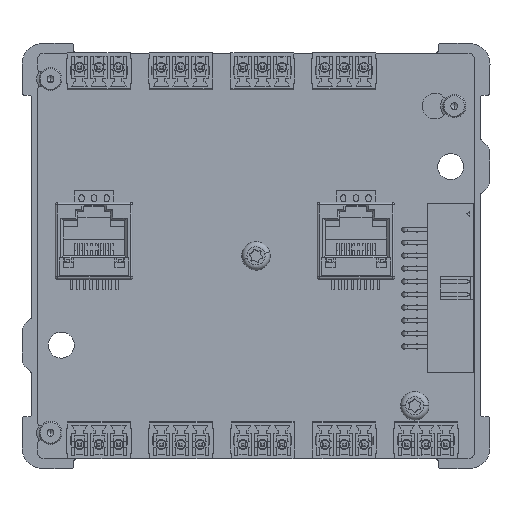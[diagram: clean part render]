
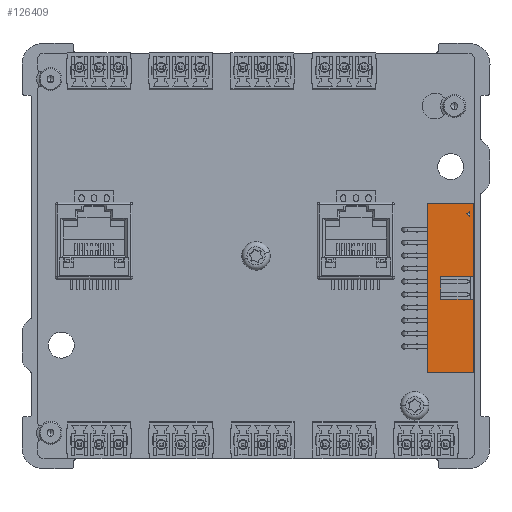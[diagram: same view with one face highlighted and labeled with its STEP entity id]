
A CAD part, top view. The second image highlights one B-rep face of the part: STEP entity #126409.
In plain terms, the highlighted free-form (B-spline) face has degree [1, 1] with [2, 2] control points.
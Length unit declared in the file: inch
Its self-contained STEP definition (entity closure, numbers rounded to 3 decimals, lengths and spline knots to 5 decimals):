
#858 = LINE ( 'NONE', #20258, #192823 ) ;
#5289 = FACE_BOUND ( 'NONE', #44345, .T. ) ;
#9961 = CARTESIAN_POINT ( 'NONE',  ( 1.47198, 0.60547, -0.26989 ) ) ;
#10151 = EDGE_CURVE ( 'NONE', #155593, #46162, #115164, .T. ) ;
#13766 = VECTOR ( 'NONE', #71559, 39.37008 ) ;
#19291 = VECTOR ( 'NONE', #187952, 39.37008 ) ;
#20258 = CARTESIAN_POINT ( 'NONE',  ( 1.41544, 1.08716, -0.26989 ) ) ;
#21258 = VECTOR ( 'NONE', #229078, 39.37008 ) ;
#30052 = CARTESIAN_POINT ( 'NONE',  ( 1.47899, 1.19289, -0.26989 ) ) ;
#33537 = CARTESIAN_POINT ( 'NONE',  ( 1.47198, -0.13311, -0.26989 ) ) ;
#34084 = VERTEX_POINT ( 'NONE', #236809 ) ;
#39496 = VERTEX_POINT ( 'NONE', #85392 ) ;
#40898 = VERTEX_POINT ( 'NONE', #9961 ) ;
#44345 = EDGE_LOOP ( 'NONE', ( #60470, #134954, #202706 ) ) ;
#44971 = VECTOR ( 'NONE', #131217, 39.37008 ) ;
#46162 = VERTEX_POINT ( 'NONE', #206807 ) ;
#54009 = LINE ( 'NONE', #195549, #196486 ) ;
#55388 = VECTOR ( 'NONE', #141908, 39.37008 ) ;
#60470 = ORIENTED_EDGE ( 'NONE', *, *, #155108, .F. ) ;
#61006 = CARTESIAN_POINT ( 'NONE',  ( 1.47198, 0.42831, -0.26989 ) ) ;
#67114 = CARTESIAN_POINT ( 'NONE',  ( 1.47198, 0.42831, -0.26989 ) ) ;
#71559 = DIRECTION ( 'NONE',  ( -1., 0., 0. ) ) ;
#75638 = EDGE_CURVE ( 'NONE', #34084, #163302, #858, .T. ) ;
#78463 = EDGE_CURVE ( 'NONE', #148120, #34084, #91553, .T. ) ;
#80467 = CARTESIAN_POINT ( 'NONE',  ( 1.47198, -0.13311, -0.26989 ) ) ;
#84443 = ORIENTED_EDGE ( 'NONE', *, *, #206263, .T. ) ;
#85102 = DIRECTION ( 'NONE',  ( -0.866, -0.5, 0. ) ) ;
#85392 = CARTESIAN_POINT ( 'NONE',  ( 1.12159, 1.16689, -0.26989 ) ) ;
#87003 = EDGE_CURVE ( 'NONE', #135571, #39496, #156000, .T. ) ;
#91553 = LINE ( 'NONE', #177853, #135262 ) ;
#94349 = LINE ( 'NONE', #167802, #44971 ) ;
#94559 = EDGE_CURVE ( 'NONE', #105459, #135571, #211674, .T. ) ;
#94991 = DIRECTION ( 'NONE',  ( 0.866, -0.5, 0. ) ) ;
#99938 = LINE ( 'NONE', #187675, #143570 ) ;
#102102 = ORIENTED_EDGE ( 'NONE', *, *, #155518, .T. ) ;
#104600 = ORIENTED_EDGE ( 'NONE', *, *, #94559, .F. ) ;
#104672 = CARTESIAN_POINT ( 'NONE',  ( 1.44442, 1.07043, -0.26989 ) ) ;
#104832 = LINE ( 'NONE', #67114, #55388 ) ;
#105459 = VERTEX_POINT ( 'NONE', #121260 ) ;
#108077 = VERTEX_POINT ( 'NONE', #197502 ) ;
#112479 = EDGE_CURVE ( 'NONE', #105459, #222567, #120101, .T. ) ;
#115164 = LINE ( 'NONE', #192446, #214002 ) ;
#116211 = EDGE_CURVE ( 'NONE', #108077, #39496, #205605, .T. ) ;
#120101 = LINE ( 'NONE', #80467, #21258 ) ;
#121260 = CARTESIAN_POINT ( 'NONE',  ( 1.47198, -0.13311, -0.26989 ) ) ;
#126409 = ADVANCED_FACE ( 'NONE', ( #202956, #5289 ), #134503, .T. ) ;
#127711 = EDGE_LOOP ( 'NONE', ( #102102, #188088, #150580, #104600, #222078, #84443, #228348, #238685 ) ) ;
#131217 = DIRECTION ( 'NONE',  ( 0., 1., 0. ) ) ;
#133292 = EDGE_CURVE ( 'NONE', #40898, #155593, #99938, .T. ) ;
#134503 = B_SPLINE_SURFACE_WITH_KNOTS ( 'NONE', 1, 1, ( 
 ( #178045, #141396 ),
 ( #30052, #160100 ) ),
 .UNSPECIFIED., .F., .F., .F.,
 ( 2, 2 ),
 ( 2, 2 ),
 ( -0.6604, 33.6804 ),
 ( -0.178, 9.078 ),
 .UNSPECIFIED. ) ;
#134954 = ORIENTED_EDGE ( 'NONE', *, *, #75638, .F. ) ;
#135262 = VECTOR ( 'NONE', #85102, 39.37008 ) ;
#135571 = VERTEX_POINT ( 'NONE', #142092 ) ;
#141396 = CARTESIAN_POINT ( 'NONE',  ( 1.11458, -0.15911, -0.26989 ) ) ;
#141908 = DIRECTION ( 'NONE',  ( -1., 0., 0. ) ) ;
#142092 = CARTESIAN_POINT ( 'NONE',  ( 1.12159, -0.13311, -0.26989 ) ) ;
#143570 = VECTOR ( 'NONE', #206269, 39.37008 ) ;
#148120 = VERTEX_POINT ( 'NONE', #230321 ) ;
#150580 = ORIENTED_EDGE ( 'NONE', *, *, #87003, .F. ) ;
#155108 = EDGE_CURVE ( 'NONE', #163302, #148120, #54009, .T. ) ;
#155518 = EDGE_CURVE ( 'NONE', #40898, #108077, #94349, .T. ) ;
#155593 = VERTEX_POINT ( 'NONE', #226138 ) ;
#156000 = LINE ( 'NONE', #169274, #19291 ) ;
#160100 = CARTESIAN_POINT ( 'NONE',  ( 1.11458, 1.19289, -0.26989 ) ) ;
#163302 = VERTEX_POINT ( 'NONE', #104672 ) ;
#167802 = CARTESIAN_POINT ( 'NONE',  ( 1.47198, 0.60547, -0.26989 ) ) ;
#169274 = CARTESIAN_POINT ( 'NONE',  ( 1.12159, -0.13311, -0.26989 ) ) ;
#177853 = CARTESIAN_POINT ( 'NONE',  ( 1.44442, 1.1039, -0.26989 ) ) ;
#178045 = CARTESIAN_POINT ( 'NONE',  ( 1.47899, -0.15911, -0.26989 ) ) ;
#187675 = CARTESIAN_POINT ( 'NONE',  ( 1.47198, 0.60547, -0.26989 ) ) ;
#187952 = DIRECTION ( 'NONE',  ( 0., 1., 0. ) ) ;
#188088 = ORIENTED_EDGE ( 'NONE', *, *, #116211, .T. ) ;
#191639 = DIRECTION ( 'NONE',  ( 0., -1., 0. ) ) ;
#192446 = CARTESIAN_POINT ( 'NONE',  ( 1.22001, 0.60547, -0.26989 ) ) ;
#192823 = VECTOR ( 'NONE', #94991, 39.37008 ) ;
#195549 = CARTESIAN_POINT ( 'NONE',  ( 1.44442, 1.07043, -0.26989 ) ) ;
#196486 = VECTOR ( 'NONE', #214156, 39.37008 ) ;
#197502 = CARTESIAN_POINT ( 'NONE',  ( 1.47198, 1.16689, -0.26989 ) ) ;
#202706 = ORIENTED_EDGE ( 'NONE', *, *, #78463, .F. ) ;
#202956 = FACE_OUTER_BOUND ( 'NONE', #127711, .T. ) ;
#205605 = LINE ( 'NONE', #237276, #13766 ) ;
#205846 = VECTOR ( 'NONE', #237374, 39.37008 ) ;
#206263 = EDGE_CURVE ( 'NONE', #222567, #46162, #104832, .T. ) ;
#206269 = DIRECTION ( 'NONE',  ( -1., 0., 0. ) ) ;
#206807 = CARTESIAN_POINT ( 'NONE',  ( 1.22001, 0.42831, -0.26989 ) ) ;
#211674 = LINE ( 'NONE', #33537, #205846 ) ;
#214002 = VECTOR ( 'NONE', #191639, 39.37008 ) ;
#214156 = DIRECTION ( 'NONE',  ( 0., 1., 0. ) ) ;
#222078 = ORIENTED_EDGE ( 'NONE', *, *, #112479, .T. ) ;
#222567 = VERTEX_POINT ( 'NONE', #61006 ) ;
#226138 = CARTESIAN_POINT ( 'NONE',  ( 1.22001, 0.60547, -0.26989 ) ) ;
#228348 = ORIENTED_EDGE ( 'NONE', *, *, #10151, .F. ) ;
#229078 = DIRECTION ( 'NONE',  ( 0., 1., 0. ) ) ;
#230321 = CARTESIAN_POINT ( 'NONE',  ( 1.44442, 1.1039, -0.26989 ) ) ;
#236809 = CARTESIAN_POINT ( 'NONE',  ( 1.41544, 1.08716, -0.26989 ) ) ;
#237276 = CARTESIAN_POINT ( 'NONE',  ( 1.47198, 1.16689, -0.26989 ) ) ;
#237374 = DIRECTION ( 'NONE',  ( -1., 0., 0. ) ) ;
#238685 = ORIENTED_EDGE ( 'NONE', *, *, #133292, .F. ) ;
